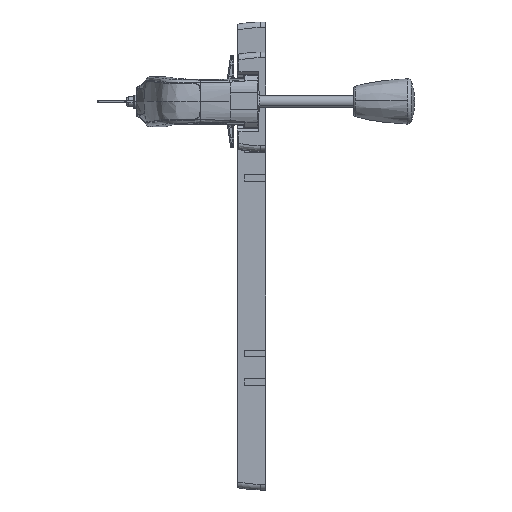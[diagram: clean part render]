
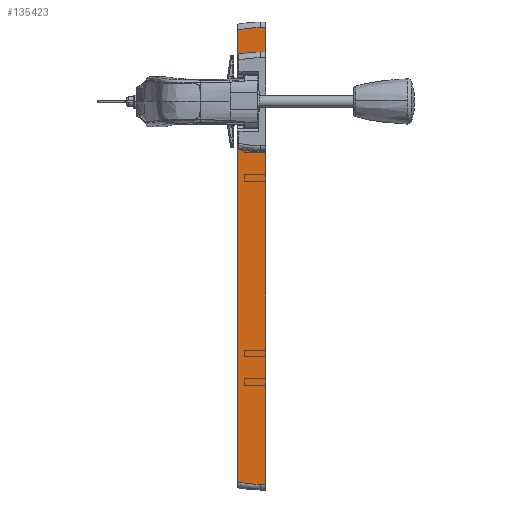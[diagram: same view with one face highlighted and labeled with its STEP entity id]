
A CAD part, top view. The second image highlights one B-rep face of the part: STEP entity #135423.
In plain terms, the highlighted planar face has unit normal (0, 0, 1) as drawn and (1, 0, 0) by its records, which use the part's own axes.
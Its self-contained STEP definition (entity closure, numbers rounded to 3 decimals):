
#3197 = EDGE_CURVE ( 'NONE', #8123, #22855, #20084, .T. ) ;
#4289 = CARTESIAN_POINT ( 'NONE',  ( 20., -19.25, -15. ) ) ;
#4417 = VECTOR ( 'NONE', #129099, 1000. ) ;
#4924 = CARTESIAN_POINT ( 'NONE',  ( 20., -269.5, -16. ) ) ;
#7523 = ORIENTED_EDGE ( 'NONE', *, *, #154665, .F. ) ;
#8123 = VERTEX_POINT ( 'NONE', #51133 ) ;
#8907 = CARTESIAN_POINT ( 'NONE',  ( 20., 19.25, -5. ) ) ;
#10329 = EDGE_CURVE ( 'NONE', #10489, #31204, #39910, .T. ) ;
#10489 = VERTEX_POINT ( 'NONE', #118714 ) ;
#11541 = VECTOR ( 'NONE', #31902, 1000. ) ;
#14690 = ORIENTED_EDGE ( 'NONE', *, *, #10329, .F. ) ;
#16273 = DIRECTION ( 'NONE',  ( 0., 0., -1. ) ) ;
#18283 = CIRCLE ( 'NONE', #111503, 76. ) ;
#20084 = LINE ( 'NONE', #68151, #11541 ) ;
#22513 = LINE ( 'NONE', #92700, #27817 ) ;
#22855 = VERTEX_POINT ( 'NONE', #27133 ) ;
#23139 = LINE ( 'NONE', #48318, #95827 ) ;
#27133 = CARTESIAN_POINT ( 'NONE',  ( 20., -267.797, 0. ) ) ;
#27815 = CARTESIAN_POINT ( 'NONE',  ( 20., 56.5, -20. ) ) ;
#27817 = VECTOR ( 'NONE', #70593, 1000. ) ;
#29352 = DIRECTION ( 'NONE',  ( 0., -1., 0. ) ) ;
#31204 = VERTEX_POINT ( 'NONE', #139479 ) ;
#31902 = DIRECTION ( 'NONE',  ( 0., -1., 0. ) ) ;
#34415 = AXIS2_PLACEMENT_3D ( 'NONE', #27815, #100333, #29352 ) ;
#34636 = CARTESIAN_POINT ( 'NONE',  ( 20., -19.25, -5. ) ) ;
#36540 = LINE ( 'NONE', #84636, #84387 ) ;
#39910 = LINE ( 'NONE', #124328, #83171 ) ;
#40392 = PLANE ( 'NONE',  #34415 ) ;
#40408 = ORIENTED_EDGE ( 'NONE', *, *, #129745, .T. ) ;
#44174 = ORIENTED_EDGE ( 'NONE', *, *, #57009, .F. ) ;
#47227 = EDGE_CURVE ( 'NONE', #78331, #66923, #107910, .T. ) ;
#48318 = CARTESIAN_POINT ( 'NONE',  ( 20., 56.5, -20. ) ) ;
#48553 = VECTOR ( 'NONE', #55002, 1000. ) ;
#50024 = VECTOR ( 'NONE', #86537, 1000. ) ;
#51133 = CARTESIAN_POINT ( 'NONE',  ( 20., 50.797, 0. ) ) ;
#54204 = ORIENTED_EDGE ( 'NONE', *, *, #47227, .T. ) ;
#55002 = DIRECTION ( 'NONE',  ( 0., 0., -1. ) ) ;
#56692 = ORIENTED_EDGE ( 'NONE', *, *, #66603, .T. ) ;
#57009 = EDGE_CURVE ( 'NONE', #31204, #123469, #23139, .T. ) ;
#61214 = VERTEX_POINT ( 'NONE', #8907 ) ;
#61635 = AXIS2_PLACEMENT_3D ( 'NONE', #80007, #128934, #93403 ) ;
#66603 = EDGE_CURVE ( 'NONE', #141281, #61214, #22513, .T. ) ;
#66842 = CARTESIAN_POINT ( 'NONE',  ( 20., 19.25, -15. ) ) ;
#66923 = VERTEX_POINT ( 'NONE', #4289 ) ;
#68151 = CARTESIAN_POINT ( 'NONE',  ( 20., 56.5, 0. ) ) ;
#68622 = DIRECTION ( 'NONE',  ( 0., -1., 0. ) ) ;
#69418 = DIRECTION ( 'NONE',  ( -1., 0., 0. ) ) ;
#70531 = ORIENTED_EDGE ( 'NONE', *, *, #78935, .T. ) ;
#70593 = DIRECTION ( 'NONE',  ( 0., 1., 0. ) ) ;
#73377 = ORIENTED_EDGE ( 'NONE', *, *, #3197, .T. ) ;
#73541 = EDGE_LOOP ( 'NONE', ( #44174, #14690, #7523, #73377, #138235, #125708 ) ) ;
#78331 = VERTEX_POINT ( 'NONE', #83526 ) ;
#78935 = EDGE_CURVE ( 'NONE', #61214, #78331, #102370, .T. ) ;
#80007 = CARTESIAN_POINT ( 'NONE',  ( 20., -193.5, -16. ) ) ;
#83171 = VECTOR ( 'NONE', #16273, 1000. ) ;
#83526 = CARTESIAN_POINT ( 'NONE',  ( 20., 19.25, -15. ) ) ;
#84387 = VECTOR ( 'NONE', #98025, 1000. ) ;
#84636 = CARTESIAN_POINT ( 'NONE',  ( 20., -19.25, -15. ) ) ;
#86537 = DIRECTION ( 'NONE',  ( 0., -1., 0. ) ) ;
#92011 = CARTESIAN_POINT ( 'NONE',  ( 20., -269.5, -20. ) ) ;
#92620 = CARTESIAN_POINT ( 'NONE',  ( 20., -269.5, -20. ) ) ;
#92700 = CARTESIAN_POINT ( 'NONE',  ( 20., 19.25, -5. ) ) ;
#93403 = DIRECTION ( 'NONE',  ( 0., -1., 0. ) ) ;
#95827 = VECTOR ( 'NONE', #97214, 1000. ) ;
#97214 = DIRECTION ( 'NONE',  ( 0., -1., 0. ) ) ;
#98025 = DIRECTION ( 'NONE',  ( 0., 0., 1. ) ) ;
#100333 = DIRECTION ( 'NONE',  ( 1., 0., 0. ) ) ;
#102370 = LINE ( 'NONE', #66842, #48553 ) ;
#107910 = LINE ( 'NONE', #124388, #50024 ) ;
#111503 = AXIS2_PLACEMENT_3D ( 'NONE', #127845, #69418, #68622 ) ;
#114527 = FACE_BOUND ( 'NONE', #123306, .T. ) ;
#118714 = CARTESIAN_POINT ( 'NONE',  ( 20., 52.5, -16. ) ) ;
#122913 = EDGE_CURVE ( 'NONE', #123469, #143464, #126763, .T. ) ;
#123306 = EDGE_LOOP ( 'NONE', ( #54204, #40408, #56692, #70531 ) ) ;
#123469 = VERTEX_POINT ( 'NONE', #92620 ) ;
#124328 = CARTESIAN_POINT ( 'NONE',  ( 20., 52.5, -20. ) ) ;
#124388 = CARTESIAN_POINT ( 'NONE',  ( 20., 19.25, -15. ) ) ;
#125708 = ORIENTED_EDGE ( 'NONE', *, *, #122913, .F. ) ;
#126763 = LINE ( 'NONE', #92011, #4417 ) ;
#127845 = CARTESIAN_POINT ( 'NONE',  ( 20., -23.5, -16. ) ) ;
#128934 = DIRECTION ( 'NONE',  ( -1., 0., 0. ) ) ;
#129099 = DIRECTION ( 'NONE',  ( 0., 0., 1. ) ) ;
#129745 = EDGE_CURVE ( 'NONE', #66923, #141281, #36540, .T. ) ;
#130260 = EDGE_CURVE ( 'NONE', #143464, #22855, #144906, .T. ) ;
#135423 = ADVANCED_FACE ( 'NONE', ( #135899, #114527 ), #40392, .T. ) ;
#135899 = FACE_OUTER_BOUND ( 'NONE', #73541, .T. ) ;
#138235 = ORIENTED_EDGE ( 'NONE', *, *, #130260, .F. ) ;
#139479 = CARTESIAN_POINT ( 'NONE',  ( 20., 52.5, -20. ) ) ;
#141281 = VERTEX_POINT ( 'NONE', #34636 ) ;
#143464 = VERTEX_POINT ( 'NONE', #4924 ) ;
#144906 = CIRCLE ( 'NONE', #61635, 76. ) ;
#154665 = EDGE_CURVE ( 'NONE', #8123, #10489, #18283, .T. ) ;
